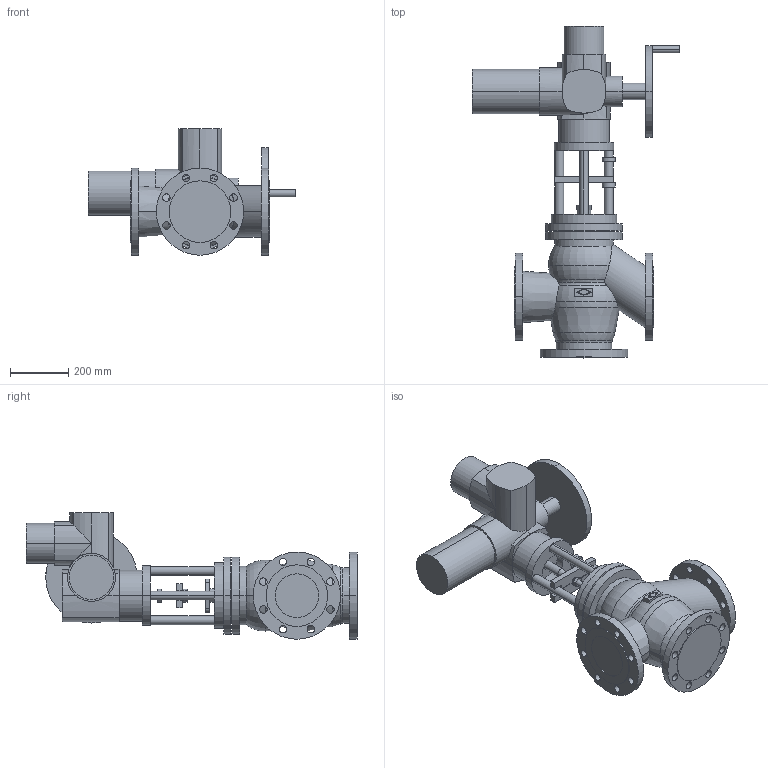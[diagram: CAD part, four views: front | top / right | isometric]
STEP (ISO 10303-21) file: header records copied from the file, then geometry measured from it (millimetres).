
FILE_DESCRIPTION(('OneSpaceDesigner STEP Export'),'2;1');
FILE_NAME('c000003188.stp','2007-01-24T11:17:55',(''),(''),'OneSpace Designer STEP processor for AP214 (Solid Model)','OneSpace Designer 14.00B 27-May-2006 (C) CoCreate Software GmbH','');
FILE_SCHEMA(('AUTOMOTIVE_DESIGN { 1 0 10303 214 1 1 1 1 }'));
Length unit declared in the file: millimetre
Products named in the file (2): 1; 2
Bounding box: 713 x 1142 x 435 mm (x, y, z)
Volume: 54478030.9 mm3; surface area: 1971634.8 mm2
Topology: 2 solids, 2 shells, 283 faces, 703 edges, 453 vertices
Faces by surface type: cylinder 157, plane 102, torus 16, cone 8
Entity records: 7937 total; most frequent: CARTESIAN_POINT 1818, ORIENTED_EDGE 1406, DIRECTION 1074, EDGE_CURVE 703, VERTEX_POINT 453, AXIS2_PLACEMENT_3D 385, EDGE_LOOP 368, VECTOR 304
